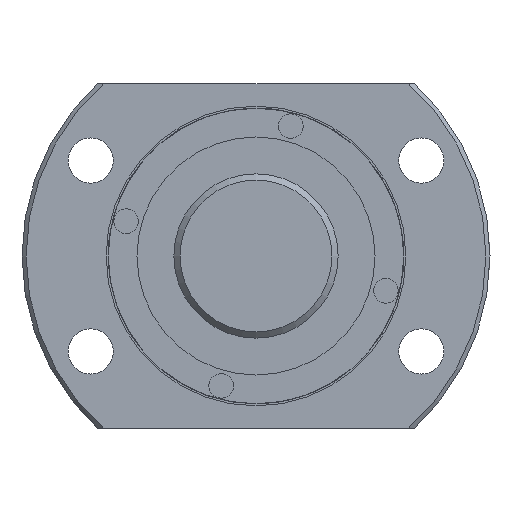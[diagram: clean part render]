
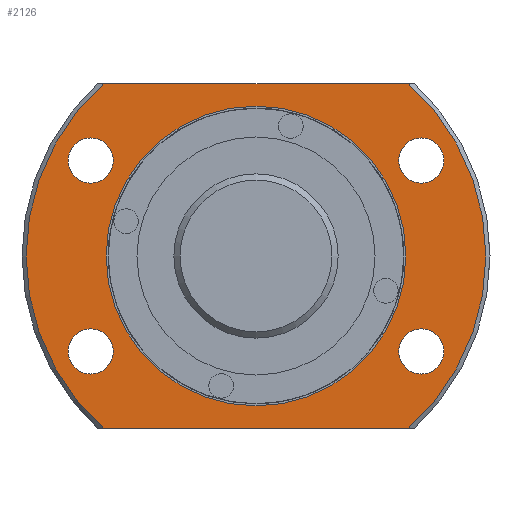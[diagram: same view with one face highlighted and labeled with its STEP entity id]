
A CAD part, left-side view. The second image highlights one B-rep face of the part: STEP entity #2126.
In plain terms, the highlighted planar face has unit normal (-1, 0, 0).
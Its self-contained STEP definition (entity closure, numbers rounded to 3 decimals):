
#81=LINE('',#3591,#201);
#82=LINE('',#3592,#202);
#201=VECTOR('',#2727,1000.);
#202=VECTOR('',#2728,1000.);
#481=ORIENTED_EDGE('',*,*,#1020,.T.);
#482=ORIENTED_EDGE('',*,*,#1021,.F.);
#483=ORIENTED_EDGE('',*,*,#999,.F.);
#484=ORIENTED_EDGE('',*,*,#1022,.F.);
#485=ORIENTED_EDGE('',*,*,#1018,.F.);
#486=ORIENTED_EDGE('',*,*,#1023,.T.);
#487=ORIENTED_EDGE('',*,*,#1024,.T.);
#488=ORIENTED_EDGE('',*,*,#1025,.T.);
#489=ORIENTED_EDGE('',*,*,#1026,.T.);
#999=EDGE_CURVE('',#1272,#1271,#1432,.T.);
#1018=EDGE_CURVE('',#1287,#1288,#1446,.T.);
#1020=EDGE_CURVE('',#1289,#1289,#1447,.T.);
#1021=EDGE_CURVE('',#1271,#1287,#81,.T.);
#1022=EDGE_CURVE('',#1288,#1272,#82,.T.);
#1023=EDGE_CURVE('',#1290,#1290,#1448,.T.);
#1024=EDGE_CURVE('',#1291,#1291,#1449,.T.);
#1025=EDGE_CURVE('',#1292,#1292,#1450,.T.);
#1026=EDGE_CURVE('',#1293,#1293,#1451,.T.);
#1271=VERTEX_POINT('',#3524);
#1272=VERTEX_POINT('',#3529);
#1287=VERTEX_POINT('',#3581);
#1288=VERTEX_POINT('',#3583);
#1289=VERTEX_POINT('',#3590);
#1290=VERTEX_POINT('',#3594);
#1291=VERTEX_POINT('',#3596);
#1292=VERTEX_POINT('',#3598);
#1293=VERTEX_POINT('',#3600);
#1432=CIRCLE('',#2324,56.);
#1446=CIRCLE('',#2347,56.);
#1447=CIRCLE('',#2349,36.5);
#1448=CIRCLE('',#2350,5.5);
#1449=CIRCLE('',#2351,5.5);
#1450=CIRCLE('',#2352,5.5);
#1451=CIRCLE('',#2353,5.5);
#1579=EDGE_LOOP('',(#481));
#1580=EDGE_LOOP('',(#482,#483,#484,#485));
#1581=EDGE_LOOP('',(#486));
#1582=EDGE_LOOP('',(#487));
#1583=EDGE_LOOP('',(#488));
#1584=EDGE_LOOP('',(#489));
#1813=FACE_BOUND('',#1579,.T.);
#1814=FACE_BOUND('',#1580,.T.);
#1815=FACE_BOUND('',#1581,.T.);
#1816=FACE_BOUND('',#1582,.T.);
#1817=FACE_BOUND('',#1583,.T.);
#1818=FACE_BOUND('',#1584,.T.);
#2013=PLANE('',#2348);
#2126=ADVANCED_FACE('',(#1813,#1814,#1815,#1816,#1817,#1818),#2013,.T.);
#2324=AXIS2_PLACEMENT_3D('',#3530,#2673,#2674);
#2347=AXIS2_PLACEMENT_3D('',#3582,#2721,#2722);
#2348=AXIS2_PLACEMENT_3D('',#3588,#2723,#2724);
#2349=AXIS2_PLACEMENT_3D('',#3589,#2725,#2726);
#2350=AXIS2_PLACEMENT_3D('',#3593,#2729,#2730);
#2351=AXIS2_PLACEMENT_3D('',#3595,#2731,#2732);
#2352=AXIS2_PLACEMENT_3D('',#3597,#2733,#2734);
#2353=AXIS2_PLACEMENT_3D('',#3599,#2735,#2736);
#2673=DIRECTION('',(1.,0.,0.));
#2674=DIRECTION('',(0.,0.,-1.));
#2721=DIRECTION('',(1.,0.,0.));
#2722=DIRECTION('',(0.,0.,-1.));
#2723=DIRECTION('',(-1.,0.,0.));
#2724=DIRECTION('',(0.,0.,1.));
#2725=DIRECTION('',(1.,0.,0.));
#2726=DIRECTION('',(0.,0.,-1.));
#2727=DIRECTION('',(0.,1.,0.));
#2728=DIRECTION('',(0.,-1.,0.));
#2729=DIRECTION('',(1.,0.,0.));
#2730=DIRECTION('',(0.,0.,-1.));
#2731=DIRECTION('',(1.,0.,0.));
#2732=DIRECTION('',(0.,0.,-1.));
#2733=DIRECTION('',(1.,0.,0.));
#2734=DIRECTION('',(0.,0.,-1.));
#2735=DIRECTION('',(1.,0.,0.));
#2736=DIRECTION('',(0.,0.,-1.));
#3524=CARTESIAN_POINT('',(11.5,-37.041,-42.));
#3529=CARTESIAN_POINT('',(11.5,-37.041,42.));
#3530=CARTESIAN_POINT('',(11.5,0.,0.));
#3581=CARTESIAN_POINT('',(11.5,37.041,-42.));
#3582=CARTESIAN_POINT('',(11.5,0.,0.));
#3583=CARTESIAN_POINT('',(11.5,37.041,42.));
#3588=CARTESIAN_POINT('',(11.5,56.,0.));
#3589=CARTESIAN_POINT('',(11.5,0.,0.));
#3590=CARTESIAN_POINT('',(11.5,0.,-36.5));
#3591=CARTESIAN_POINT('',(11.5,56.,-42.));
#3592=CARTESIAN_POINT('',(11.5,56.,42.));
#3593=CARTESIAN_POINT('',(11.5,40.27,-23.25));
#3594=CARTESIAN_POINT('',(11.5,40.27,-28.75));
#3595=CARTESIAN_POINT('',(11.5,-40.27,23.25));
#3596=CARTESIAN_POINT('',(11.5,-40.27,17.75));
#3597=CARTESIAN_POINT('',(11.5,-40.27,-23.25));
#3598=CARTESIAN_POINT('',(11.5,-40.27,-28.75));
#3599=CARTESIAN_POINT('',(11.5,40.27,23.25));
#3600=CARTESIAN_POINT('',(11.5,40.27,17.75));
